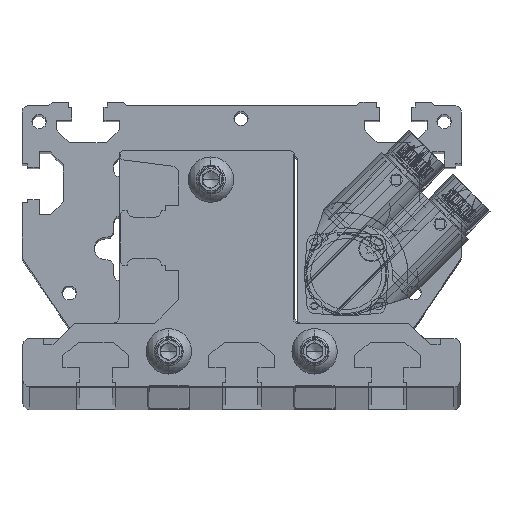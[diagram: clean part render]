
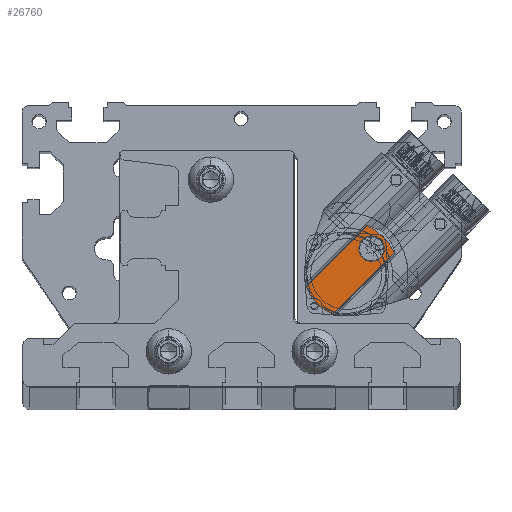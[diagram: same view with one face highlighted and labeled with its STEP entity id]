
A CAD part, top view. The second image highlights one B-rep face of the part: STEP entity #26760.
In plain terms, the highlighted planar face has unit normal (0, 0, 1).
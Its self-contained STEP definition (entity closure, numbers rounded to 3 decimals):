
#442 = CARTESIAN_POINT ( 'NONE',  ( 6.567, 14.874, 18.8 ) ) ;
#444 = CARTESIAN_POINT ( 'NONE',  ( 7.463, 14.421, 18.8 ) ) ;
#446 = CARTESIAN_POINT ( 'NONE',  ( 8.312, 13.902, 18.8 ) ) ;
#447 = CARTESIAN_POINT ( 'NONE',  ( 9.519, 13.027, 18.8 ) ) ;
#449 = CARTESIAN_POINT ( 'NONE',  ( 9.909, 12.72, 18.8 ) ) ;
#451 = CARTESIAN_POINT ( 'NONE',  ( 10.668, 12.073, 18.8 ) ) ;
#452 = CARTESIAN_POINT ( 'NONE',  ( 11.037, 11.732, 18.8 ) ) ;
#453 = CARTESIAN_POINT ( 'NONE',  ( 12.098, 10.67, 18.8 ) ) ;
#454 = CARTESIAN_POINT ( 'NONE',  ( 12.741, 9.914, 18.8 ) ) ;
#455 = CARTESIAN_POINT ( 'NONE',  ( 13.902, 8.311, 18.8 ) ) ;
#456 = CARTESIAN_POINT ( 'NONE',  ( 14.421, 7.463, 18.8 ) ) ;
#457 = CARTESIAN_POINT ( 'NONE',  ( 14.874, 6.567, 18.8 ) ) ;
#462 = DIRECTION ( 'NONE',  ( 0.707, 0.707, 0. ) ) ;
#464 = CARTESIAN_POINT ( 'NONE',  ( 13.735, 5.428, 18.8 ) ) ;
#1745 = PLANE ( 'NONE',  #19582 ) ;
#1746 = CARTESIAN_POINT ( 'NONE',  ( 9.581, 9.581, 18.8 ) ) ;
#1747 = DIRECTION ( 'NONE',  ( 0., 0., 1. ) ) ;
#1748 = DIRECTION ( 'NONE',  ( 0.707, -0.707, 0. ) ) ;
#2681 = CARTESIAN_POINT ( 'NONE',  ( 5.428, 13.735, 18.8 ) ) ;
#2682 = DIRECTION ( 'NONE',  ( -0.707, -0.707, 0. ) ) ;
#3310 = EDGE_CURVE ( 'NONE', #16896, #16519, #37342, .T. ) ;
#3314 = EDGE_CURVE ( 'NONE', #16519, #16584, #40572, .T. ) ;
#3502 = EDGE_CURVE ( 'NONE', #16896, #16489, #37483, .T. ) ;
#3504 = EDGE_CURVE ( 'NONE', #15777, #15781, #37484, .T. ) ;
#3633 = EDGE_CURVE ( 'NONE', #15781, #15777, #37585, .T. ) ;
#4272 = DIRECTION ( 'NONE',  ( -0.707, -0.707, 0. ) ) ;
#4273 = DIRECTION ( 'NONE',  ( 0., 0., -1. ) ) ;
#4274 = CARTESIAN_POINT ( 'NONE',  ( 7.778, 7.778, 18.8 ) ) ;
#4674 = DIRECTION ( 'NONE',  ( -0.707, -0.707, 0. ) ) ;
#4675 = DIRECTION ( 'NONE',  ( 0., 0., -1. ) ) ;
#4676 = CARTESIAN_POINT ( 'NONE',  ( 7.778, 7.778, 18.8 ) ) ;
#4677 = DIRECTION ( 'NONE',  ( 0.707, -0.707, 0. ) ) ;
#4678 = DIRECTION ( 'NONE',  ( 0., 0., -1. ) ) ;
#4679 = CARTESIAN_POINT ( 'NONE',  ( 0., 0., 18.8 ) ) ;
#8872 = LINE ( 'NONE', #2681, #8873 ) ;
#8873 = VECTOR ( 'NONE', #2682, 1000. ) ;
#12038 = FACE_BOUND ( 'NONE', #33303, .T. ) ;
#12040 = FACE_OUTER_BOUND ( 'NONE', #33302, .T. ) ;
#15777 = VERTEX_POINT ( 'NONE', #41199 ) ;
#15781 = VERTEX_POINT ( 'NONE', #41196 ) ;
#16489 = VERTEX_POINT ( 'NONE', #40778 ) ;
#16519 = VERTEX_POINT ( 'NONE', #40962 ) ;
#16584 = VERTEX_POINT ( 'NONE', #40811 ) ;
#16896 = VERTEX_POINT ( 'NONE', #26022 ) ;
#17646 = ORIENTED_EDGE ( 'NONE', *, *, #26885, .T. ) ;
#17647 = ORIENTED_EDGE ( 'NONE', *, *, #3314, .T. ) ;
#17648 = ORIENTED_EDGE ( 'NONE', *, *, #3310, .T. ) ;
#17649 = ORIENTED_EDGE ( 'NONE', *, *, #3502, .F. ) ;
#17650 = ORIENTED_EDGE ( 'NONE', *, *, #3504, .T. ) ;
#17651 = ORIENTED_EDGE ( 'NONE', *, *, #3633, .T. ) ;
#19582 = AXIS2_PLACEMENT_3D ( 'NONE', #1746, #1747, #1748 ) ;
#26022 = CARTESIAN_POINT ( 'NONE',  ( -3.968, -12.275, 18.8 ) ) ;
#26760 = ADVANCED_FACE ( 'NONE', ( #12038, #12040 ), #1745, .T. ) ;
#26885 = EDGE_CURVE ( 'NONE', #16584, #16489, #8872, .T. ) ;
#33302 = EDGE_LOOP ( 'NONE', ( #17649, #17648, #17647, #17646 ) ) ;
#33303 = EDGE_LOOP ( 'NONE', ( #17651, #17650 ) ) ;
#37342 = LINE ( 'NONE', #464, #37343 ) ;
#37343 = VECTOR ( 'NONE', #462, 1000. ) ;
#37483 = CIRCLE ( 'NONE', #38120, 12.9 ) ;
#37484 = CIRCLE ( 'NONE', #38122, 4. ) ;
#37585 = CIRCLE ( 'NONE', #38170, 4. ) ;
#38120 = AXIS2_PLACEMENT_3D ( 'NONE', #4679, #4678, #4677 ) ;
#38122 = AXIS2_PLACEMENT_3D ( 'NONE', #4676, #4675, #4674 ) ;
#38170 = AXIS2_PLACEMENT_3D ( 'NONE', #4274, #4273, #4272 ) ;
#40572 = B_SPLINE_CURVE_WITH_KNOTS ( 'NONE', 3,
 ( #457, #456, #455, #454, #453, #452, #451, #449, #447, #446, #444, #442 ),
 .UNSPECIFIED., .F., .F.,
 ( 4, 2, 2, 2, 2, 4 ),
 ( 0., 0.003, 0.006, 0.007, 0.009, 0.012 ),
 .UNSPECIFIED. ) ;
#40778 = CARTESIAN_POINT ( 'NONE',  ( -12.275, -3.968, 18.8 ) ) ;
#40811 = CARTESIAN_POINT ( 'NONE',  ( 6.567, 14.874, 18.8 ) ) ;
#40962 = CARTESIAN_POINT ( 'NONE',  ( 14.874, 6.567, 18.8 ) ) ;
#41196 = CARTESIAN_POINT ( 'NONE',  ( 4.95, 4.95, 18.8 ) ) ;
#41199 = CARTESIAN_POINT ( 'NONE',  ( 10.607, 10.607, 18.8 ) ) ;
